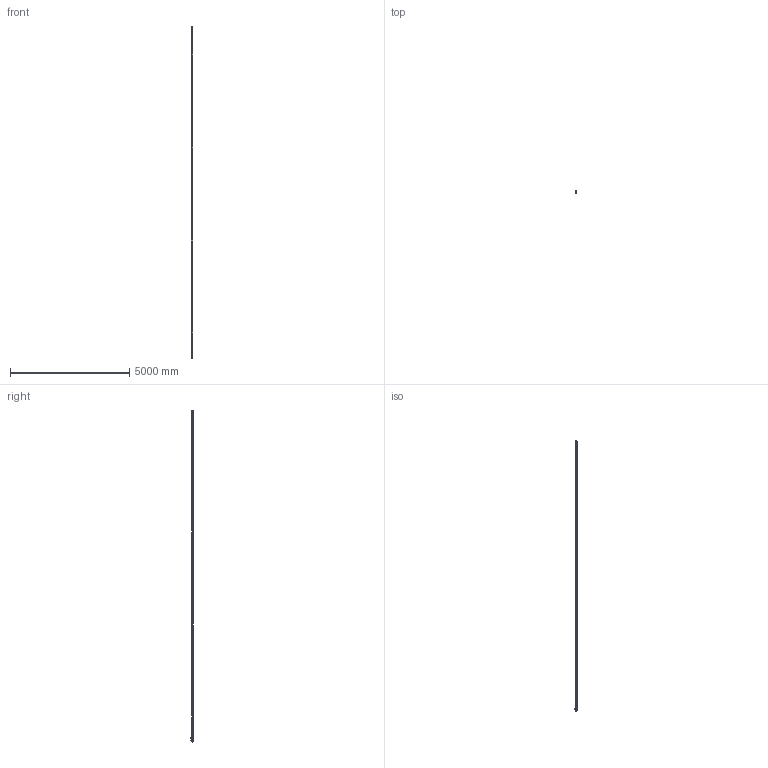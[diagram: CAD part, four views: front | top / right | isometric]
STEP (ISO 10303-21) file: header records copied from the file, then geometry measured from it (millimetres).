
FILE_DESCRIPTION(('Creo Elements/Direct Modeling STEP Export'),'2;1');
FILE_NAME('F-132.stp','2011-11-18T 8:55:37',(''),(''),'Creo Elements/Direct Modeling STEP processor for AP214 (Solid Model)','Creo Elements/Direct Modeling 17.0C 05-Feb-2011 (C) Parametric Technology GmbH','');
FILE_SCHEMA(('AUTOMOTIVE_DESIGN { 1 0 10303 214 1 1 1 1 }'));
Length unit declared in the file: millimetre
Products named in the file (5): Modulos_intermedio_(FL-14); Modulo_izq_(K).1; CABEZA; Modulo_der_(10E); F-136
Assembly tree (11 placements, depth 2):
  F-136
    Modulo_der_(10E)
    Modulos_intermedio_(FL-14)  x8
    CABEZA
    Modulo_izq_(K).1
Bounding box: 51.5 x 87.95 x 13935.6 mm (x, y, z)
Volume: 35490243.3 mm3; surface area: 4088730.9 mm2
Topology: 12 solids, 105 shells, 6377 faces, 17759 edges, 11339 vertices
Faces by surface type: cylinder 2808, plane 2401, cone 492, torus 325, bspline 251, extrusion 90, sphere 10
Entity records: 101878 total; most frequent: CARTESIAN_POINT 31610, ORIENTED_EDGE 15000, DIRECTION 13056, EDGE_CURVE 7494, VERTEX_POINT 4841, AXIS2_PLACEMENT_3D 4602, VECTOR 3852, LINE 3832
